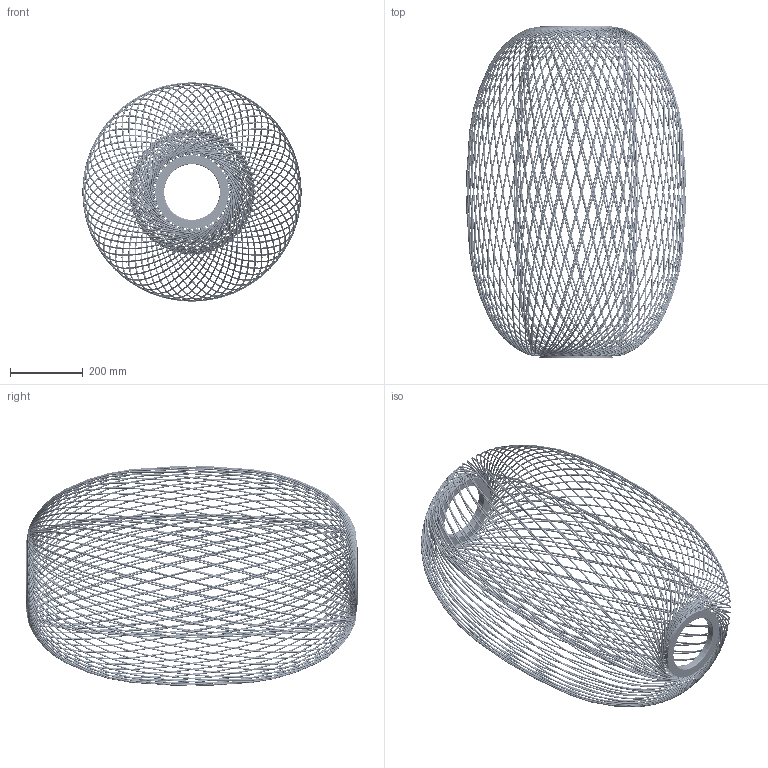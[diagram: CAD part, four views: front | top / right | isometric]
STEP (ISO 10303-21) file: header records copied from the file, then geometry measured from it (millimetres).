
FILE_DESCRIPTION (( 'STEP AP214' ), '1' );
FILE_NAME ('ANWAR 90 STRUCTURE.STEP', '2014-10-22T16:37:56', ( 'Josep Sancho' ), ( '' ), 'SwSTEP 2.0', 'SolidWorks 2010', '' );
FILE_SCHEMA (( 'AUTOMOTIVE_DESIGN' ));
Length unit declared in the file: millimetre
Products named in the file (12): 080100700000 - CONJUNTO FIJACIÓN DIAM.200X17MM SIN ACABADO; 060700400000 - REPULS DIAM.202X17 1,5MM; 061600100000 - ANILLO DIAM.183X3MM DIAM.INT.156MM; 080100300000 - CONJUNTO UNIÓN VARILLAS 600x900MM; 063200100000 - ANGULO SUPERIOR DIAM.EXT.200 DIAM.INT.153 ESP.2MM; 059700900000 - VARILLA INTERIOR DIAM.3,8 600X900MM; 059700800000 - VARILLA EXTERIOR DIAM.3,8 B 600X900MM; 059700700000 - VARILLA EXTERIOR DIAM.3,8 A 600X900MM; 063200200000 - ANGULO INFERIOR DIAM.EXT.200 DIAM.INT.153 ESP.2MM; 026700500000 - DISCO DIAM. 176X2MM DIAM. INT. 153MM; 021601500102 - TORNILLO DIN965 M4X10MM ACERO 6.8 ZINCADO; ANWAR 90 STRUCTURE
Assembly tree (61 placements, depth 3):
  ANWAR 90 STRUCTURE
    021601500102 - TORNILLO DIN965 M4X10MM ACERO 6.8 ZINCADO  x34
    080100700000 - CONJUNTO FIJACIÓN DIAM.200X17MM SIN ACABADO  x2
      061600100000 - ANILLO DIAM.183X3MM DIAM.INT.156MM
      060700400000 - REPULS DIAM.202X17 1,5MM
    080100300000 - CONJUNTO UNIÓN VARILLAS 600x900MM  x8
      059700800000 - VARILLA EXTERIOR DIAM.3,8 B 600X900MM
      063200100000 - ANGULO SUPERIOR DIAM.EXT.200 DIAM.INT.153 ESP.2MM
      059700700000 - VARILLA EXTERIOR DIAM.3,8 A 600X900MM
      059700900000 - VARILLA INTERIOR DIAM.3,8 600X900MM
      063200200000 - ANGULO INFERIOR DIAM.EXT.200 DIAM.INT.153 ESP.2MM
    026700500000 - DISCO DIAM. 176X2MM DIAM. INT. 153MM
Bounding box: 602.17 x 911 x 602.17 mm (x, y, z)
Volume: 1665782.9 mm3; surface area: 1717222.4 mm2
Topology: 151 solids, 151 shells, 4552 faces, 10446 edges, 6296 vertices
Faces by surface type: torus 1960, cylinder 1602, plane 690, cone 300
Entity records: 13513 total; most frequent: CARTESIAN_POINT 4842, DIRECTION 1673, ORIENTED_EDGE 1482, EDGE_CURVE 741, AXIS2_PLACEMENT_3D 729, VERTEX_POINT 472, EDGE_LOOP 425, CIRCLE 366
